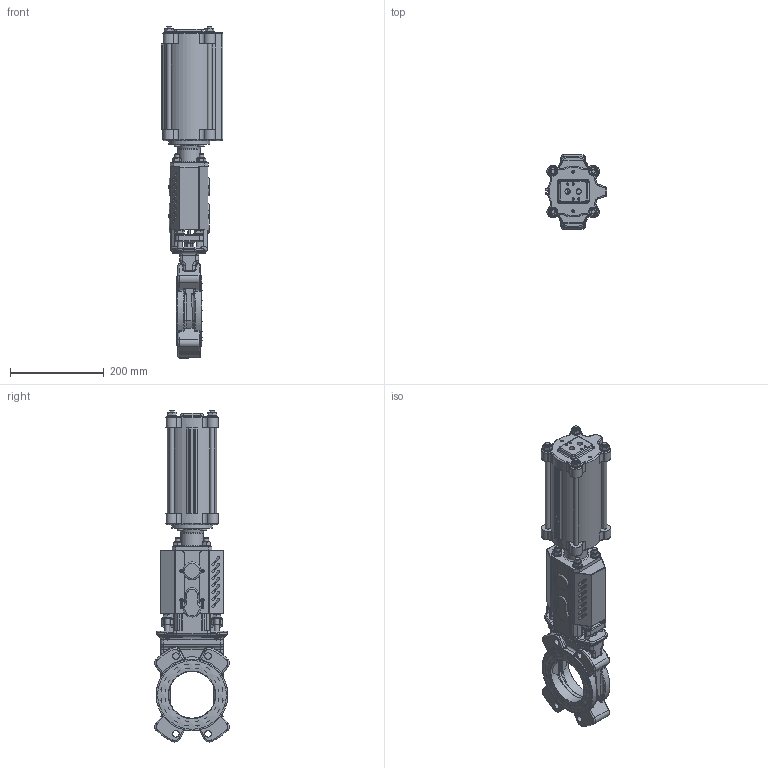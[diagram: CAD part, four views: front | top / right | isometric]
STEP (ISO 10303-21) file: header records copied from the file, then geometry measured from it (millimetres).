
FILE_DESCRIPTION(/* description */ (''),/* implementation_level */ '2;1');
FILE_NAME(/* name */ 'F:\Emir\3D-block special\WB\WB11-DN100-PN10-FRSC100-115.stp',/* time_stamp */ '2018-01-25T16:30:13+01:00',/* author */ ('emimus'),/* organization */ (''),/* preprocessor_version */ 'ST-DEVELOPER v16.5',/* originating_system */ 'Autodesk Inventor 2017',/* authorisation */ '');
FILE_SCHEMA (('CONFIG_CONTROL_DESIGN'));
Products named in the file (1): WB11-DN100-PN10-FRSC100-115_Shrinkwrap_1
Bounding box: 132 x 159.46 x 710.16 mm (x, y, z)
Volume: 2599934.5 mm3; surface area: 845614.3 mm2
Topology: 4 solids, 9 shells, 2787 faces, 6843 edges, 4093 vertices
Faces by surface type: plane 929, cylinder 759, bspline 367, torus 328, cone 222, sphere 182
Full cylindrical faces by diameter (mm): 3 x5, 4 x4, 4.134 x4, 4.2 x8, 4.5 x4, 4.917 x4, 5.95 x8, 6 x5, 8 x10, 8.5 x4, 9 x2, 10 x32, 10.106 x1, 10.5 x12, 11 x8, 11.445 x2, 13 x4, 14 x7, 14.376 x1, 15 x5, 20 x13, 20.15 x2, 22 x1, 24 x3, 26 x1, 26.4 x1, 28 x2, 35 x1, 40 x1, 48 x1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
Entity records: 98825 total; most frequent: CARTESIAN_POINT 36168, DIRECTION 13197, ORIENTED_EDGE 12684, EDGE_CURVE 6336, AXIS2_PLACEMENT_3D 5534, VERTEX_POINT 3972, EDGE_LOOP 3332, CIRCLE 2907
